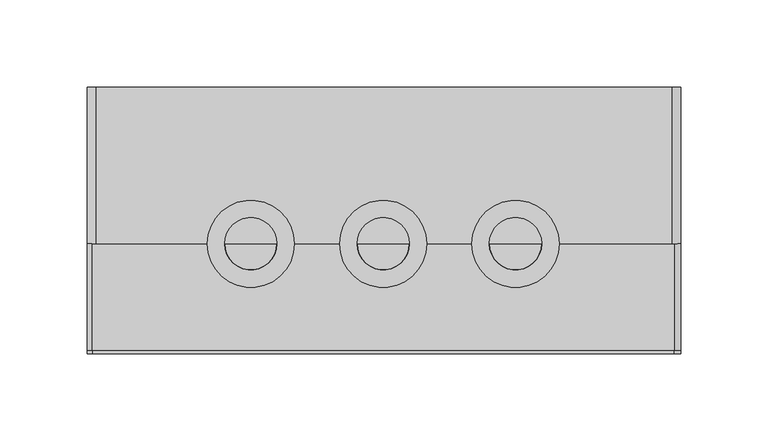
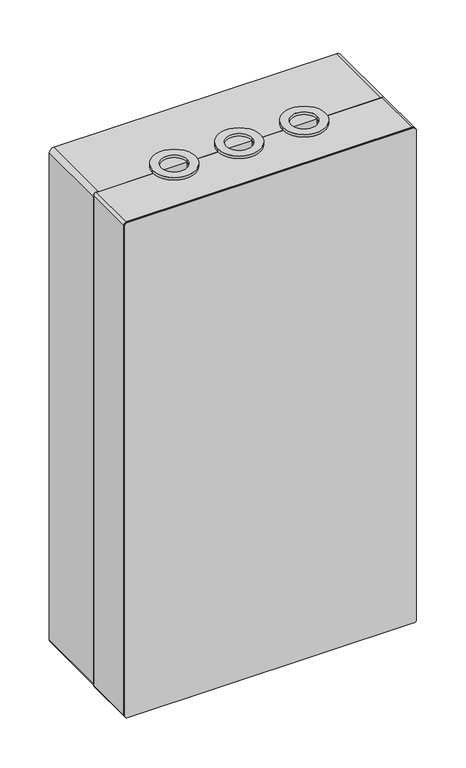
"""IFC4 building model written with IfcOpenShell, lengths in millimetres: proxy geometry, ЩРН-П-36_54_IP65 : ЩРН-П-36_IP65."""

import ifcopenshell
import ifcopenshell.guid

model = None  # the IFC model being written
_history = None  # IfcOwnerHistory: only IFC2X3 demands one
_inside = {}  # id of a spatial element -> (the spatial element, [elements in it])
_under = {}  # id of a project, library or spatial element -> (it, [spatial elements below it])
_declared = {}  # id of a project -> (the project, [libraries it declares])
_typed = {}  # id of a type object -> (the type object, [elements of that type])
_made_of = {}  # id of a material, layer set ... -> (it, [elements and type objects made of it])


def new_model(schema):
    """Start an empty IFC model of exactly this schema.

    Asked for "IFC4X3", IfcOpenShell would pick the latest addendum, in which some entities
    have other attributes; the version numbers below select the first issue.
    IFC2X3 requires an IfcOwnerHistory on every rooted entity: one is made here for all.
    """
    global model, _history
    if schema == "IFC4X3":
        model = ifcopenshell.file(schema_version=(4, 3, 0, 0))
    else:
        model = ifcopenshell.file(schema=schema)
    _inside.clear()
    _under.clear()
    _declared.clear()
    _typed.clear()
    _made_of.clear()
    _history = None
    if model.schema == "IFC2X3":
        org = make("IfcOrganization", Name="unknown")
        user = make(
            "IfcPersonAndOrganization",
            ThePerson=make("IfcPerson", FamilyName="unknown"),
            TheOrganization=org,
        )
        app = make(
            "IfcApplication",
            ApplicationDeveloper=org,
            Version="unknown",
            ApplicationFullName="unknown",
            ApplicationIdentifier="unknown",
        )
        _history = make(
            "IfcOwnerHistory",
            OwningUser=user,
            OwningApplication=app,
            ChangeAction="ADDED",
            CreationDate=0,
        )
    return model


def make(cls, **values):
    """One entity of the class cls with the attributes given. An attribute that is None is left unset."""
    return model.create_entity(
        cls, **{name: value for name, value in values.items() if value is not None}
    )


def rooted(cls, **values):
    """An entity with a GlobalId (a new one), such as an element, a storey or a relation."""
    return make(cls, GlobalId=ifcopenshell.guid.new(), OwnerHistory=_history, **values)


def si_unit(unit_type, name, prefix=None):
    """IfcSIUnit, for example si_unit("LENGTHUNIT", "METRE", prefix="MILLI")."""
    return make("IfcSIUnit", UnitType=unit_type, Prefix=prefix, Name=name)


def assignment(units):
    """IfcUnitAssignment: the units of a project."""
    return None if units is None else make("IfcUnitAssignment", Units=units)


def point(xyz):
    """IfcCartesianPoint."""
    return None if xyz is None else make("IfcCartesianPoint", Coordinates=xyz)


def direction(xyz):
    """IfcDirection."""
    return None if xyz is None else make("IfcDirection", DirectionRatios=xyz)


def frame(location, z_axis=None, x_axis=None):
    """IfcAxis2Placement3D, a coordinate frame: its origin and axes. An axis left out is left unset."""
    return make(
        "IfcAxis2Placement3D",
        Location=point(location),
        Axis=direction(z_axis),
        RefDirection=direction(x_axis),
    )


def frame_2d(location, x_axis=None):
    """IfcAxis2Placement2D, a coordinate frame in the plane: its origin and x axis."""
    return make(
        "IfcAxis2Placement2D", Location=point(location), RefDirection=direction(x_axis)
    )


def origin():
    """The frame at (0, 0, 0) with its axes left unset."""
    return frame((0.0, 0.0, 0.0))


def place(relative_to, where):
    """IfcLocalPlacement: puts the frame where relative to a parent placement (None: the world)."""
    return make(
        "IfcLocalPlacement", PlacementRelTo=relative_to, RelativePlacement=where
    )


def context(
    kind, dimensions, precision=None, world=None, true_north=None, identifier=None
):
    """IfcGeometricRepresentationContext, for example the 3D "Model" context."""
    return make(
        "IfcGeometricRepresentationContext",
        ContextIdentifier=identifier,
        ContextType=kind,
        CoordinateSpaceDimension=dimensions,
        Precision=precision,
        WorldCoordinateSystem=world,
        TrueNorth=true_north,
    )


def project(units=None, contexts=None):
    """IfcProject with its units and contexts."""
    return rooted(
        "IfcProject",
        Name="project",
        RepresentationContexts=contexts,
        UnitsInContext=assignment(units),
    )


def spatial(cls, under=None, at=None, **own):
    """A site, building, storey or space (cls), placed at a placement, below another one or the project."""
    s = rooted(cls, ObjectPlacement=at, **own)
    if under is not None:
        _under.setdefault(under.id(), (under, []))[1].append(s)
    return s


def polyline(points):
    """IfcPolyline through the points."""
    return make("IfcPolyline", Points=[point(p) for p in points])


def circle_curve(where, radius):
    """IfcCircle in the frame where."""
    return make("IfcCircle", Position=where, Radius=radius)


def trimmed(basis, trim1, trim2, sense, master):
    """IfcTrimmedCurve: the piece of a basis curve between two trims."""
    return make(
        "IfcTrimmedCurve",
        BasisCurve=basis,
        Trim1=trim1,
        Trim2=trim2,
        SenseAgreement=sense,
        MasterRepresentation=master,
    )


def segment(curve, same_sense, transition):
    """IfcCompositeCurveSegment."""
    return make(
        "IfcCompositeCurveSegment",
        Transition=transition,
        SameSense=same_sense,
        ParentCurve=curve,
    )


def composite_curve(segments, self_intersect=None):
    """IfcCompositeCurve: segments joined end to end."""
    return make("IfcCompositeCurve", Segments=segments, SelfIntersect=self_intersect)


def outline(outer, holes=None, kind="AREA"):
    """IfcArbitraryClosedProfileDef: a profile drawn as a closed curve; with holes, ...WithVoids."""
    if holes is None:
        return make("IfcArbitraryClosedProfileDef", ProfileType=kind, OuterCurve=outer)
    return make(
        "IfcArbitraryProfileDefWithVoids",
        ProfileType=kind,
        OuterCurve=outer,
        InnerCurves=holes,
    )


def extrude(swept, where, along, depth):
    """IfcExtrudedAreaSolid: the profile swept, set in the frame where, extruded along a direction by depth."""
    return make(
        "IfcExtrudedAreaSolid",
        SweptArea=swept,
        Position=where,
        ExtrudedDirection=direction(along),
        Depth=depth,
    )


def faces_of(points, faces, orient=None, outer=None):
    """IfcFace entities. A face is a list of loops; a loop is a list of indices into points, from 0.

    orient and outer hold one flag for each loop. By default every Orientation is true, the
    first loop of a face is its IfcFaceOuterBound and the others are IfcFaceBound.
    """
    made = []
    for i, loops in enumerate(faces):
        bounds = []
        for j, loop in enumerate(loops):
            is_outer = j == 0 if outer is None else outer[i][j]
            bounds.append(
                make(
                    "IfcFaceOuterBound" if is_outer else "IfcFaceBound",
                    Bound=make("IfcPolyLoop", Polygon=[points[k] for k in loop]),
                    Orientation=True if orient is None else orient[i][j],
                )
            )
        made.append(make("IfcFace", Bounds=bounds))
    return made


def faceted_brep(points, faces, orient=None, outer=None, voids=None):
    """IfcFacetedBrep: a solid bounded by flat faces; with voids (closed shells), ...WithVoids."""
    shared = [point(p) for p in points]
    hull = make("IfcClosedShell", CfsFaces=faces_of(shared, faces, orient, outer))
    if voids is None:
        return make("IfcFacetedBrep", Outer=hull)
    return make(
        "IfcFacetedBrepWithVoids",
        Outer=hull,
        Voids=[
            make(cls, CfsFaces=faces_of(shared, fs, o, b)) for cls, fs, o, b in voids
        ],
    )


def shape(context_of_items, identifier, shape_type, items):
    """IfcShapeRepresentation: the items that make up one representation, for example the "Body"."""
    return make(
        "IfcShapeRepresentation",
        ContextOfItems=context_of_items,
        RepresentationIdentifier=identifier,
        RepresentationType=shape_type,
        Items=items,
    )


def source(mapping_origin, context_of_items, identifier, shape_type, items):
    """IfcRepresentationMap: a shape defined once, which mapped items show again and again."""
    return make(
        "IfcRepresentationMap",
        MappingOrigin=mapping_origin,
        MappedRepresentation=shape(context_of_items, identifier, shape_type, items),
    )


def transform(
    local_origin,
    x_axis=None,
    y_axis=None,
    z_axis=None,
    scale=None,
    scale2=None,
    scale3=None,
    uniform=True,
):
    """IfcCartesianTransformationOperator3D, or its non-uniform kind. x_axis, y_axis, z_axis: its Axis1, 2, 3."""
    if uniform:
        return make(
            "IfcCartesianTransformationOperator3D",
            Axis1=direction(x_axis),
            Axis2=direction(y_axis),
            LocalOrigin=point(local_origin),
            Scale=scale,
            Axis3=direction(z_axis),
        )
    return make(
        "IfcCartesianTransformationOperator3DnonUniform",
        Axis1=direction(x_axis),
        Axis2=direction(y_axis),
        LocalOrigin=point(local_origin),
        Scale=scale,
        Axis3=direction(z_axis),
        Scale2=scale2,
        Scale3=scale3,
    )


def mapped(mapping_source, mapping_target):
    """IfcMappedItem: shows the shape of a source again, moved by a transform."""
    return make(
        "IfcMappedItem", MappingSource=mapping_source, MappingTarget=mapping_target
    )


def made_of(thing, what):
    """Note that an element or type object is made of a material, layer set ...; save() writes the relation."""
    if what is not None:
        _made_of.setdefault(what.id(), (what, []))[1].append(thing)
    return thing


def element(
    cls,
    number,
    at=None,
    inside=None,
    cuts=None,
    type_object=None,
    material=None,
    context=None,
    identifier="Body",
    shape_type=None,
    held_by="IfcProductDefinitionShape",
    body=None,
    shapes=None,
    **own,
):
    """One element of the class cls, such as IfcWall. Its Tag is "e" and its number.

    at: its placement. inside: the storey or other place that contains it. cuts: it is an
    opening in that element (IfcRelVoidsElement). A single representation is given by context,
    identifier, shape_type and body (its items); several are given by shapes. held_by: the class
    of the entity that holds the representations. save() writes the other relations.
    """
    e = rooted(cls, Tag="e%d" % number, ObjectPlacement=at, **own)
    if body is not None:
        shapes = [shape(context, identifier, shape_type, body)]
    if shapes is not None:
        e.Representation = make(held_by, Representations=shapes)
    if inside is not None:
        _inside.setdefault(inside.id(), (inside, []))[1].append(e)
    if cuts is not None:
        rooted(
            "IfcRelVoidsElement", RelatingBuildingElement=cuts, RelatedOpeningElement=e
        )
    if type_object is not None:
        _typed.setdefault(type_object.id(), (type_object, []))[1].append(e)
    return made_of(e, material)


def aggregate(whole, parts):
    """IfcRelAggregates: a whole, such as a stair, and the parts it consists of."""
    return rooted("IfcRelAggregates", RelatingObject=whole, RelatedObjects=parts)


def save(model, path):
    """Write the relations noted so far, then the file.

    IfcRelAggregates (storeys below a building ...), IfcRelContainedInSpatialStructure (elements
    in a storey), IfcRelDefinesByType, IfcRelAssociatesMaterial and IfcRelDeclares: one each for
    every whole, place, type object, material and project.
    """
    for whole, parts in _under.values():
        aggregate(whole, parts)
    for where, things in _inside.values():
        rooted(
            "IfcRelContainedInSpatialStructure",
            RelatedElements=things,
            RelatingStructure=where,
        )
    for kind, things in _typed.values():
        rooted("IfcRelDefinesByType", RelatedObjects=things, RelatingType=kind)
    for what, things in _made_of.values():
        rooted("IfcRelAssociatesMaterial", RelatedObjects=things, RelatingMaterial=what)
    for by, libraries in _declared.values():
        rooted("IfcRelDeclares", RelatingContext=by, RelatedDefinitions=libraries)
    model.write(path)


def plane_surface(at):
    """IfcPlane: the flat surface through the origin of the frame at, square to its z axis."""
    return make("IfcPlane", Position=at)


def cylinder_surface(at, radius):
    """IfcCylindricalSurface: all points at the distance radius from the z axis of the frame at."""
    return make("IfcCylindricalSurface", Position=at, Radius=radius)


def revolved_surface(curve, axis_point, axis_direction):
    """IfcSurfaceOfRevolution: the curve turned about the line through axis_point along axis_direction."""
    return make(
        "IfcSurfaceOfRevolution",
        SweptCurve=make("IfcArbitraryOpenProfileDef", ProfileType="CURVE", Curve=curve),
        AxisPosition=make("IfcAxis1Placement", Location=point(axis_point), Axis=direction(axis_direction)),
    )


def advanced_brep(points, edges, surfaces, faces):
    """IfcAdvancedBrep: a solid bounded by faces that lie on surfaces and meet in shared edges.

    An edge is (start, end): straight between two places in points (the first is 0);
    or (start, end, curve); or (start, end, curve, False) where it runs against its curve.
    A face is (place in surfaces, loops), or (place, loops, False) where it looks against
    its surface's normal. A loop lists edges by number (the first is 1), with a minus sign
    where the edge is run from its end to its start. The first loop is the outer one.
    """
    corners = [point(p) for p in points]
    vertices = [make("IfcVertexPoint", VertexGeometry=c) for c in corners]
    made = []
    for start, end, *more in edges:
        made.append(
            make(
                "IfcEdgeCurve",
                EdgeStart=vertices[start],
                EdgeEnd=vertices[end],
                EdgeGeometry=more[0] if more else make("IfcPolyline", Points=[corners[start], corners[end]]),
                SameSense=more[1] if len(more) > 1 else True,
            )
        )
    hull = []
    for where, loops, *sense in faces:
        bounds = []
        for j, loop in enumerate(loops):
            ring = [make("IfcOrientedEdge", EdgeElement=made[abs(k) - 1], Orientation=k > 0) for k in loop]
            bounds.append(
                make(
                    "IfcFaceOuterBound" if j == 0 else "IfcFaceBound",
                    Bound=make("IfcEdgeLoop", EdgeList=ring),
                    Orientation=True,
                )
            )
        hull.append(make("IfcAdvancedFace", Bounds=bounds, FaceSurface=surfaces[where], SameSense=sense[0] if sense else True))
    return make("IfcAdvancedBrep", Outer=make("IfcClosedShell", CfsFaces=hull))


def electrical_equipment_999e1e20(model_context):
    return source(origin(), model_context, "Body", "SolidModel", [
        faceted_brep([(170.5, 143.0, 167.0), (170.5, 123.0, 167.0), (170.5, 123.0, 122.0), (170.5, 143.0, 122.0), (170.5, 143.0, 23.0), (170.5, 123.0, 23.0), (170.5, 123.0, -22.0), (170.5, 143.0, -22.0), (170.5, 143.0, -122.0), (170.5, 123.0, -122.0), (170.5, 123.0, -167.0), (170.5, 143.0, -167.0), (170.5, 143.0, -257.0), (170.5, 153.0, -257.0), (170.5, 153.0, 257.0), (170.5, 143.0, 257.0), (147.7026444, 143.0, -167.0), (147.7026444, 123.0, -167.0), (147.7026444, 123.0, -122.0), (147.7026444, 143.0, -122.0), (147.7026444, 143.0, -22.0), (147.7026444, 123.0, -22.0), (147.7026444, 123.0, 23.0), (147.7026444, 143.0, 23.0), (147.7026444, 143.0, 122.0), (147.7026444, 123.0, 122.0), (147.7026444, 123.0, 167.0), (147.7026444, 143.0, 167.0), (-165.0, 143.0, 257.0), (-165.0, 143.0, -257.0), (-165.0, 153.0, -257.0), (-165.0, 153.0, 257.0)], [[[0, 1, 2, 3, 4, 5, 6, 7, 8, 9, 10, 11, 12, 13, 14, 15]], [[16, 17, 18, 19]], [[20, 21, 22, 23]], [[24, 25, 26, 27]], [[1, 0, 27, 26]], [[2, 1, 26, 25]], [[3, 2, 25, 24]], [[4, 3, 24, 27, 0, 15, 28, 29, 12, 11, 16, 19, 8, 7, 20, 23]], [[5, 4, 23, 22]], [[6, 5, 22, 21]], [[7, 6, 21, 20]], [[9, 8, 19, 18]], [[10, 9, 18, 17]], [[11, 10, 17, 16]], [[13, 12, 29, 30]], [[14, 13, 30, 31]], [[28, 15, 14, 31]], [[29, 28, 31, 30]]]),
        advanced_brep(
        [(147.7026444, 123.0, -257.0), (-165.0, 123.0, -257.0), (-165.0, 123.0, 257.0), (147.7026444, 123.0, 257.0), (147.7026444, 123.0, 167.0), (170.5, 123.0, 167.0), (170.5, 123.0, 122.0), (147.7026444, 123.0, 122.0), (147.7026444, 123.0, 23.0), (170.5, 123.0, 23.0), (170.5, 123.0, -22.0), (147.7026444, 123.0, -22.0), (147.7026444, 123.0, -122.0), (170.5, 123.0, -122.0), (170.5, 123.0, -167.0), (147.7026444, 123.0, -167.0), (147.7026444, 143.0, 257.0), (147.7026444, 143.0, 167.0), (147.7026444, 143.0, 122.0), (147.7026444, 143.0, 23.0), (147.7026444, 143.0, -22.0), (147.7026444, 143.0, -122.0), (147.7026444, 143.0, -167.0), (147.7026444, 143.0, -257.0), (-165.0, 153.0, 257.0), (170.5, 153.0, 257.0), (170.5, 143.0, 257.0), (-165.0, 153.0, -257.0), (170.5, 143.0, -257.0), (170.5, 153.0, -257.0), (-165.5, 63.0, 306.0), (-170.5, 63.0, 301.0), (-170.5, 63.0, -301.0), (-165.5, 63.0, -306.0), (165.5, 63.0, -306.0), (170.5, 63.0, -301.0), (170.5, 63.0, 301.0), (165.5, 63.0, 306.0), (-165.5, 153.0, 306.0), (165.5, 153.0, 306.0), (170.5, 153.0, 301.0), (170.5, 153.0, -301.0), (165.5, 153.0, -306.0), (-165.5, 153.0, -306.0), (-170.5, 153.0, -301.0), (-170.5, 153.0, 301.0), (170.5, 143.0, -167.0), (170.5, 143.0, -122.0), (170.5, 143.0, -22.0), (170.5, 143.0, 23.0), (170.5, 143.0, 122.0), (170.5, 143.0, 167.0)],
        [
            (0, 1),
            (1, 2),
            (2, 3),
            (3, 4),
            (4, 5),
            (5, 6),
            (6, 7),
            (7, 8),
            (8, 9),
            (9, 10),
            (10, 11),
            (11, 12),
            (12, 13),
            (13, 14),
            (14, 15),
            (15, 0),
            (3, 16),
            (16, 17),
            (17, 4),
            (7, 18),
            (18, 19),
            (19, 8),
            (11, 20),
            (20, 21),
            (21, 12),
            (15, 22),
            (22, 23),
            (23, 0),
            (2, 24),
            (24, 25),
            (25, 26),
            (26, 16),
            (1, 27),
            (27, 24),
            (23, 28),
            (28, 29),
            (29, 27),
            (30, 31, circle_curve(frame((-165.5, 63.0, 301.0), z_axis=(0.0, -1.0, 0.0), x_axis=(1.0, 0.0, 0.0)), 5.0)),
            (31, 32),
            (32, 33, circle_curve(frame((-165.5, 63.0, -301.0), z_axis=(0.0, -1.0, 0.0), x_axis=(1.0, 0.0, 0.0)), 5.0)),
            (33, 34),
            (34, 35, circle_curve(frame((165.5, 63.0, -301.0), z_axis=(0.0, -1.0, 0.0), x_axis=(1.0, 0.0, 0.0)), 5.0)),
            (35, 36),
            (36, 37, circle_curve(frame((165.5, 63.0, 301.0), z_axis=(0.0, -1.0, 0.0), x_axis=(1.0, 0.0, 0.0)), 5.0)),
            (37, 30),
            (38, 39),
            (39, 40, circle_curve(frame((165.5, 153.0, 301.0), z_axis=(0.0, 1.0, 0.0), x_axis=(1.0, 0.0, 0.0)), 5.0)),
            (40, 25),
            (29, 41),
            (41, 42, circle_curve(frame((165.5, 153.0, -301.0), z_axis=(0.0, 1.0, 0.0), x_axis=(1.0, 0.0, 0.0)), 5.0)),
            (42, 43),
            (43, 44, circle_curve(frame((-165.5, 153.0, -301.0), z_axis=(0.0, 1.0, 0.0), x_axis=(1.0, 0.0, 0.0)), 5.0)),
            (44, 45),
            (45, 38, circle_curve(frame((-165.5, 153.0, 301.0), z_axis=(0.0, 1.0, 0.0), x_axis=(1.0, 0.0, 0.0)), 5.0)),
            (30, 38),
            (45, 31),
            (44, 32),
            (43, 33),
            (42, 34),
            (41, 35),
            (28, 46),
            (46, 14),
            (13, 47),
            (47, 48),
            (48, 10),
            (9, 49),
            (49, 50),
            (50, 6),
            (5, 51),
            (51, 26),
            (40, 36),
            (39, 37),
            (51, 17),
            (50, 18),
            (49, 19),
            (48, 20),
            (47, 21),
            (46, 22),
        ],
        [
            plane_surface(frame((147.7026444, 123.0, -257.0), z_axis=(0.0, 1.0, 0.0), x_axis=(0.0, 0.0, 1.0))),
            plane_surface(frame((147.7026444, 123.0, -257.0), z_axis=(-1.0, 0.0, 0.0), x_axis=(0.0, 1.0, 0.0))),
            plane_surface(frame((147.7026444, 123.0, 257.0), z_axis=(0.0, 0.0, -1.0), x_axis=(0.0, 1.0, 0.0))),
            plane_surface(frame((-165.0, 123.0, 257.0), z_axis=(1.0, 0.0, 0.0), x_axis=(0.0, 1.0, 0.0))),
            plane_surface(frame((-165.0, 123.0, -257.0), z_axis=(0.0, 0.0, 1.0), x_axis=(0.0, 1.0, 0.0))),
            plane_surface(frame((-160.5, 63.0, 301.0), z_axis=(0.0, -1.0, 0.0), x_axis=(0.0, 0.0, 1.0))),
            plane_surface(frame((-160.5, 153.0, 301.0), z_axis=(0.0, 1.0, 0.0), x_axis=(0.0, 0.0, -1.0))),
            cylinder_surface(frame((-165.5, 153.0, 301.0), z_axis=(0.0, -1.0, 0.0), x_axis=(1.0, 0.0, 0.0)), 5.0),
            plane_surface(frame((-170.5, 63.0, 301.0), z_axis=(-1.0, 0.0, 0.0), x_axis=(0.0, 1.0, 0.0))),
            cylinder_surface(frame((-165.5, 153.0, -301.0), z_axis=(0.0, -1.0, 0.0), x_axis=(1.0, 0.0, 0.0)), 5.0),
            plane_surface(frame((-165.5, 63.0, -306.0), z_axis=(0.0, 0.0, -1.0), x_axis=(0.0, 1.0, 0.0))),
            cylinder_surface(frame((165.5, 153.0, -301.0), z_axis=(0.0, -1.0, 0.0), x_axis=(1.0, 0.0, 0.0)), 5.0),
            plane_surface(frame((170.5, 63.0, -301.0), z_axis=(1.0, 0.0, 0.0), x_axis=(0.0, 1.0, 0.0))),
            cylinder_surface(frame((165.5, 153.0, 301.0), z_axis=(0.0, -1.0, 0.0), x_axis=(1.0, 0.0, 0.0)), 5.0),
            plane_surface(frame((165.5, 63.0, 306.0), z_axis=(0.0, 0.0, 1.0), x_axis=(0.0, 1.0, 0.0))),
            plane_surface(frame((170.5, 143.0, 257.0), z_axis=(0.0, 1.0, 0.0), x_axis=(-1.0, 0.0, 0.0))),
            plane_surface(frame((170.5, 143.0, 167.0), z_axis=(0.0, 0.0, -1.0), x_axis=(-1.0, 0.0, 0.0))),
            plane_surface(frame((170.5, 123.0, 122.0), z_axis=(0.0, 0.0, 1.0), x_axis=(-1.0, 0.0, 0.0))),
            plane_surface(frame((170.5, 143.0, 122.0), z_axis=(0.0, 1.0, 0.0), x_axis=(-1.0, 0.0, 0.0))),
            plane_surface(frame((170.5, 143.0, 23.0), z_axis=(0.0, 0.0, -1.0), x_axis=(-1.0, 0.0, 0.0))),
            plane_surface(frame((170.5, 123.0, -22.0), z_axis=(0.0, 0.0, 1.0), x_axis=(-1.0, 0.0, 0.0))),
            plane_surface(frame((170.5, 143.0, -22.0), z_axis=(0.0, 1.0, 0.0), x_axis=(-1.0, 0.0, 0.0))),
            plane_surface(frame((170.5, 143.0, -122.0), z_axis=(0.0, 0.0, -1.0), x_axis=(-1.0, 0.0, 0.0))),
            plane_surface(frame((170.5, 123.0, -167.0), z_axis=(0.0, 0.0, 1.0), x_axis=(-1.0, 0.0, 0.0))),
            plane_surface(frame((170.5, 143.0, -167.0), z_axis=(0.0, 1.0, 0.0), x_axis=(-1.0, 0.0, 0.0))),
        ],
        [
            (0, [[1, 2, 3, 4, 5, 6, 7, 8, 9, 10, 11, 12, 13, 14, 15, 16]]),
            (1, [[-4, 17, 18, 19]]),
            (1, [[-8, 20, 21, 22]]),
            (1, [[-12, 23, 24, 25]]),
            (1, [[-16, 26, 27, 28]]),
            (2, [[-3, 29, 30, 31, 32, -17]]),
            (3, [[-2, 33, 34, -29]]),
            (4, [[-1, -28, 35, 36, 37, -33]]),
            (5, [[38, 39, 40, 41, 42, 43, 44, 45]]),
            (6, [[46, 47, 48, -30, -34, -37, 49, 50, 51, 52, 53, 54]]),
            (7, [[-38, 55, -54, 56]]),
            (8, [[-39, -56, -53, 57]]),
            (9, [[-40, -57, -52, 58]]),
            (10, [[-41, -58, -51, 59]]),
            (11, [[-42, -59, -50, 60]]),
            (12, [[-43, -60, -49, -36, 61, 62, -14, 63, 64, 65, -10, 66, 67, 68, -6, 69, 70, -31, -48, 71]]),
            (13, [[-44, -71, -47, 72]]),
            (14, [[-45, -72, -46, -55]]),
            (15, [[-32, -70, 73, -18]]),
            (16, [[-73, -69, -5, -19]]),
            (17, [[-7, -68, 74, -20]]),
            (18, [[-74, -67, 75, -21]]),
            (19, [[-75, -66, -9, -22]]),
            (20, [[-11, -65, 76, -23]]),
            (21, [[-76, -64, 77, -24]]),
            (22, [[-77, -63, -13, -25]]),
            (23, [[-15, -62, 78, -26]]),
            (24, [[-78, -61, -35, -27]]),
        ],
    ),
        advanced_brep(
        [(166.5283006, 2.0, 306.0), (-167.5, 2.0, 306.0), (-170.5, 2.0, 303.0), (-170.5, 2.0, -303.0), (-167.5, 2.0, -306.0), (167.5, 2.0, -306.0), (170.5, 2.0, -303.0), (170.5, 2.0, 302.0283006), (166.5283006, 63.0, 306.0), (170.5, 63.0, 302.0283006), (170.5, 63.0, -303.0), (167.5, 63.0, -306.0), (-167.5, 63.0, -306.0), (-170.5, 63.0, -303.0), (-170.5, 63.0, 303.0), (-167.5, 63.0, 306.0), (-91.4858497, 63.0, 306.0), (-91.4858497, 63.0, 257.0), (-61.4858497, 63.0, 257.0), (-61.4858497, 63.0, 306.0), (-15.4858497, 63.0, 306.0), (-15.4858497, 63.0, 257.0), (14.5141503, 63.0, 257.0), (14.5141503, 63.0, 306.0), (60.5141503, 63.0, 306.0), (60.5141503, 63.0, 257.0), (90.5141503, 63.0, 257.0), (90.5141503, 63.0, 306.0)],
        [
            (0, 1),
            (1, 2, circle_curve(frame((-167.5, 2.0, 303.0), z_axis=(0.0, -1.0, 0.0), x_axis=(1.0, 0.0, 0.0)), 3.0)),
            (2, 3),
            (3, 4, circle_curve(frame((-167.5, 2.0, -303.0), z_axis=(0.0, -1.0, 0.0), x_axis=(1.0, 0.0, 0.0)), 3.0)),
            (4, 5),
            (5, 6, circle_curve(frame((167.5, 2.0, -303.0), z_axis=(0.0, -1.0, 0.0), x_axis=(1.0, 0.0, 0.0)), 3.0)),
            (6, 7),
            (7, 0, circle_curve(frame((166.5283006, 2.0, 302.0283006), z_axis=(0.0, -1.0, 0.0), x_axis=(1.0, 0.0, 0.0)), 3.9716994)),
            (8, 9, circle_curve(frame((166.5283006, 63.0, 302.0283006), z_axis=(0.0, 1.0, 0.0), x_axis=(1.0, 0.0, 0.0)), 3.9716994)),
            (9, 10),
            (10, 11, circle_curve(frame((167.5, 63.0, -303.0), z_axis=(0.0, 1.0, 0.0), x_axis=(1.0, 0.0, 0.0)), 3.0)),
            (11, 12),
            (12, 13, circle_curve(frame((-167.5, 63.0, -303.0), z_axis=(0.0, 1.0, 0.0), x_axis=(1.0, 0.0, 0.0)), 3.0)),
            (13, 14),
            (14, 15, circle_curve(frame((-167.5, 63.0, 303.0), z_axis=(0.0, 1.0, 0.0), x_axis=(1.0, 0.0, 0.0)), 3.0)),
            (15, 16),
            (16, 17),
            (17, 18),
            (18, 19),
            (19, 20),
            (20, 21),
            (21, 22),
            (22, 23),
            (23, 24),
            (24, 25),
            (25, 26),
            (26, 27),
            (27, 8),
            (0, 8),
            (27, 24, circle_curve(frame((75.5141503, 63.0, 306.0), z_axis=(0.0, 0.0, -1.0), x_axis=(1.0, 0.0, 0.0)), 15.0)),
            (23, 20, circle_curve(frame((-0.4858497, 63.0, 306.0), z_axis=(0.0, 0.0, -1.0), x_axis=(1.0, 0.0, 0.0)), 15.0)),
            (19, 16, circle_curve(frame((-76.4858497, 63.0, 306.0), z_axis=(0.0, 0.0, -1.0), x_axis=(1.0, 0.0, 0.0)), 15.0)),
            (15, 1),
            (14, 2),
            (13, 3),
            (12, 4),
            (11, 5),
            (10, 6),
            (9, 7),
            (17, 18, circle_curve(frame((-76.4858497, 63.0, 257.0), z_axis=(0.0, 0.0, 1.0), x_axis=(1.0, 0.0, 0.0)), 15.0)),
            (21, 22, circle_curve(frame((-0.4858497, 63.0, 257.0), z_axis=(0.0, 0.0, 1.0), x_axis=(1.0, 0.0, 0.0)), 15.0)),
            (25, 26, circle_curve(frame((75.5141503, 63.0, 257.0), z_axis=(0.0, 0.0, 1.0), x_axis=(1.0, 0.0, 0.0)), 15.0)),
        ],
        [
            plane_surface(frame((-167.5, 2.0, 306.0), z_axis=(0.0, -1.0, 0.0), x_axis=(-1.0, 0.0, 0.0))),
            plane_surface(frame((-167.5, 63.0, 306.0), z_axis=(0.0, 1.0, 0.0), x_axis=(1.0, 0.0, 0.0))),
            plane_surface(frame((166.5283006, 2.0, 306.0), z_axis=(0.0, 0.0, 1.0), x_axis=(0.0, 1.0, 0.0))),
            cylinder_surface(frame((-167.5, 63.0, 303.0), z_axis=(0.0, -1.0, 0.0), x_axis=(1.0, 0.0, 0.0)), 3.0),
            plane_surface(frame((-170.5, 2.0, 303.0), z_axis=(-1.0, 0.0, 0.0), x_axis=(0.0, 1.0, 0.0))),
            cylinder_surface(frame((-167.5, 63.0, -303.0), z_axis=(0.0, -1.0, 0.0), x_axis=(1.0, 0.0, 0.0)), 3.0),
            plane_surface(frame((-167.5, 2.0, -306.0), z_axis=(0.0, 0.0, -1.0), x_axis=(0.0, 1.0, 0.0))),
            cylinder_surface(frame((167.5, 63.0, -303.0), z_axis=(0.0, -1.0, 0.0), x_axis=(1.0, 0.0, 0.0)), 3.0),
            plane_surface(frame((170.5, 2.0, -303.0), z_axis=(1.0, 0.0, 0.0), x_axis=(0.0, 1.0, 0.0))),
            cylinder_surface(frame((166.5283006, 63.0, 302.0283006), z_axis=(0.0, -1.0, 0.0), x_axis=(1.0, 0.0, 0.0)), 3.9716994),
            plane_surface(frame((-61.4858497, 63.0, 257.0), z_axis=(0.0, 0.0, 1.0), x_axis=(0.0, -1.0, 0.0))),
            revolved_surface(polyline([(-61.4858497, 63.0, 306.0), (-61.4858497, 63.0, 257.0)]), (-76.4858497, 63.0, 257.0), (0.0, 0.0, 1.0)),
            revolved_surface(polyline([(14.5141503, 63.0, 306.0), (14.5141503, 63.0, 257.0)]), (-0.4858497, 63.0, 0.0), (0.0, 0.0, 1.0)),
            revolved_surface(polyline([(90.5141503, 63.0, 306.0), (90.5141503, 63.0, 257.0)]), (75.5141503, 63.0, 0.0), (0.0, 0.0, 1.0)),
        ],
        [
            (0, [[1, 2, 3, 4, 5, 6, 7, 8]]),
            (1, [[9, 10, 11, 12, 13, 14, 15, 16, 17, 18, 19, 20, 21, 22, 23, 24, 25, 26, 27, 28]]),
            (2, [[-1, 29, -28, 30, -24, 31, -20, 32, -16, 33]]),
            (3, [[-2, -33, -15, 34]]),
            (4, [[-3, -34, -14, 35]]),
            (5, [[-4, -35, -13, 36]]),
            (6, [[-5, -36, -12, 37]]),
            (7, [[-6, -37, -11, 38]]),
            (8, [[-7, -38, -10, 39]]),
            (9, [[-8, -39, -9, -29]]),
            (10, [[40, -18]]),
            (10, [[41, -22]]),
            (10, [[42, -26]]),
            (11, [[-40, -17, -32, -19]]),
            (12, [[-41, -21, -31, -23]]),
            (13, [[-42, -25, -30, -27]]),
        ],
    ),
        extrude(outline(composite_curve([segment(trimmed(circle_curve(frame_2d((-0.4858497, 63.0)), 25.0), [point((-25.4858497, 63.0))], [point((24.5141503, 63.0))], False, "CARTESIAN"), True, "CONTINUOUS"), segment(trimmed(circle_curve(frame_2d((-0.4858497, 63.0)), 25.0), [point((24.5141503, 63.0))], [point((-25.4858497, 63.0))], False, "CARTESIAN"), True, "CONTINUOUS")], self_intersect=False), holes=[composite_curve([segment(trimmed(circle_curve(frame_2d((-0.4858497, 63.0)), 15.0), [point((-15.4858497, 63.0))], [point((14.5141503, 63.0))], True, "CARTESIAN"), True, "CONTINUOUS"), segment(trimmed(circle_curve(frame_2d((-0.4858497, 63.0)), 15.0), [point((14.5141503, 63.0))], [point((-15.4858497, 63.0))], True, "CARTESIAN"), True, "CONTINUOUS")], self_intersect=False)]), frame((0.0, 0.0, 306.0), z_axis=(0.0, 0.0, 1.0), x_axis=(1.0, 0.0, 0.0)), (0.0, 0.0, 1.0), 3.6328561),
        extrude(outline(composite_curve([segment(trimmed(circle_curve(frame_2d((75.5141503, 63.0)), 25.0), [point((50.5141503, 63.0))], [point((100.5141503, 63.0))], False, "CARTESIAN"), True, "CONTINUOUS"), segment(trimmed(circle_curve(frame_2d((75.5141503, 63.0)), 25.0), [point((100.5141503, 63.0))], [point((50.5141503, 63.0))], False, "CARTESIAN"), True, "CONTINUOUS")], self_intersect=False), holes=[composite_curve([segment(trimmed(circle_curve(frame_2d((75.5141503, 63.0)), 15.0), [point((60.5141503, 63.0))], [point((90.5141503, 63.0))], True, "CARTESIAN"), True, "CONTINUOUS"), segment(trimmed(circle_curve(frame_2d((75.5141503, 63.0)), 15.0), [point((90.5141503, 63.0))], [point((60.5141503, 63.0))], True, "CARTESIAN"), True, "CONTINUOUS")], self_intersect=False)]), frame((0.0, 0.0, 306.0), z_axis=(0.0, 0.0, 1.0), x_axis=(1.0, 0.0, 0.0)), (0.0, 0.0, 1.0), 3.6328561),
        extrude(outline(composite_curve([segment(trimmed(circle_curve(frame_2d((-76.4858497, 63.0)), 25.0), [point((-101.4858497, 63.0))], [point((-51.4858497, 63.0))], False, "CARTESIAN"), True, "CONTINUOUS"), segment(trimmed(circle_curve(frame_2d((-76.4858497, 63.0)), 25.0), [point((-51.4858497, 63.0))], [point((-101.4858497, 63.0))], False, "CARTESIAN"), True, "CONTINUOUS")], self_intersect=False), holes=[composite_curve([segment(trimmed(circle_curve(frame_2d((-76.4858497, 63.0)), 15.0), [point((-91.4858497, 63.0))], [point((-61.4858497, 63.0))], True, "CARTESIAN"), True, "CONTINUOUS"), segment(trimmed(circle_curve(frame_2d((-76.4858497, 63.0)), 15.0), [point((-61.4858497, 63.0))], [point((-91.4858497, 63.0))], True, "CARTESIAN"), True, "CONTINUOUS")], self_intersect=False)]), frame((0.0, 0.0, 306.0), z_axis=(0.0, 0.0, 1.0), x_axis=(1.0, 0.0, 0.0)), (0.0, 0.0, 1.0), 3.6328561),
        extrude(outline(composite_curve([segment(trimmed(circle_curve(frame_2d((303.0, -167.5)), 3.0), [point((306.0, -167.5))], [point((303.0, -170.5))], False, "CARTESIAN"), True, "CONTINUOUS"), segment(polyline([(303.0, -170.5), (-303.0, -170.5)]), True, "CONTINUOUS"), segment(trimmed(circle_curve(frame_2d((-303.0, -167.5)), 3.0), [point((-303.0, -170.5))], [point((-306.0, -167.5))], False, "CARTESIAN"), True, "CONTINUOUS"), segment(polyline([(-306.0, -167.5), (-306.0, 167.5)]), True, "CONTINUOUS"), segment(trimmed(circle_curve(frame_2d((-303.0, 167.5)), 3.0), [point((-306.0, 167.5))], [point((-303.0, 170.5))], False, "CARTESIAN"), True, "CONTINUOUS"), segment(polyline([(-303.0, 170.5), (302.0283006, 170.5)]), True, "CONTINUOUS"), segment(trimmed(circle_curve(frame_2d((302.0283006, 166.5283006)), 3.9716994), [point((302.0283006, 170.5))], [point((306.0, 166.5283006))], False, "CARTESIAN"), True, "CONTINUOUS"), segment(polyline([(306.0, 166.5283006), (306.0, -167.5)]), True, "CONTINUOUS")], self_intersect=False)), frame((0.0, 0.0, 0.0), z_axis=(0.0, 1.0, 0.0), x_axis=(0.0, 0.0, 1.0)), (0.0, 0.0, 1.0), 2.0),
    ])


if __name__ == "__main__":
    model = new_model("IFC4")
    model_context = context("Model", 3, world=origin())
    ifc_project = project(units=[si_unit("LENGTHUNIT", "METRE", prefix="MILLI")], contexts=[model_context])
    site = spatial("IfcSite", under=ifc_project)
    building = spatial("IfcBuilding", under=site)
    placement = place(None, origin())
    electrical_equipment_shape = electrical_equipment_999e1e20(model_context)
    element("IfcBuildingElementProxy", 1, Name="ЩРН-П-36_54_IP65 : ЩРН-П-36_IP65", ObjectType="ЩРН-П-36_54_IP65 : ЩРН-П-36_IP65", at=placement, inside=building, context=model_context, shape_type="MappedRepresentation", body=[
        mapped(electrical_equipment_shape, transform((0.0, 0.0, 0.0), x_axis=(1.0, 0.0, 0.0), y_axis=(0.0, 1.0, 0.0), z_axis=(0.0, 0.0, 1.0))),
    ])
    save(model, "model.ifc")
